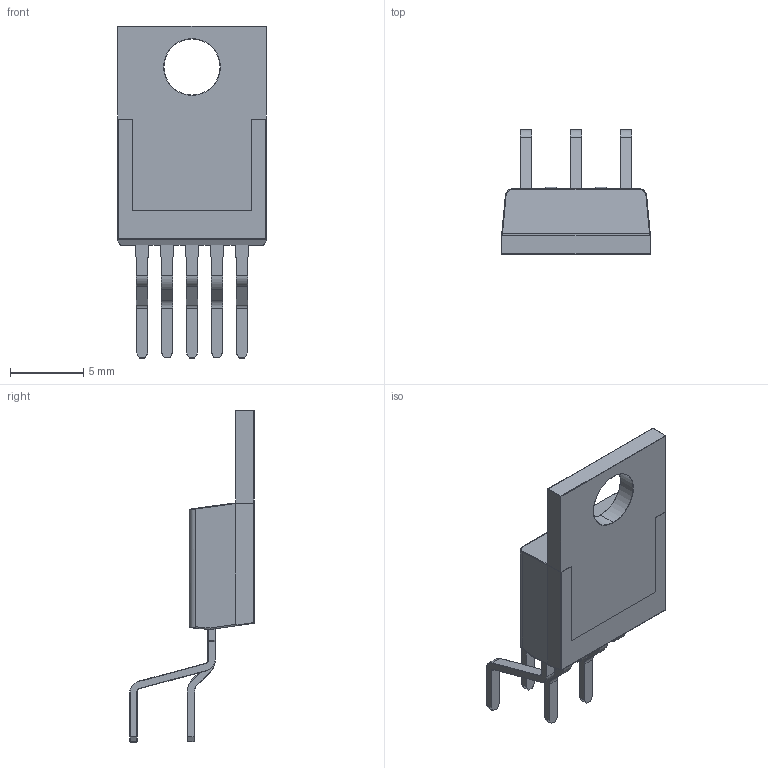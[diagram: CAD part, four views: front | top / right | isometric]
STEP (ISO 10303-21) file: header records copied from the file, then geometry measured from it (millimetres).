
FILE_DESCRIPTION (( 'STEP AP214' ), '1' );
FILE_NAME ('6A72329E-18C2-4E92-B75C-997CB3BC5F99.STEP', '2023-05-24T21:05:29', ( '' ), ( '' ), 'SwSTEP 2.0', 'SolidWorks 2022', '' );
FILE_SCHEMA (( 'AUTOMOTIVE_DESIGN' ));
Length unit declared in the file: millimetre
Products named in the file (1): 6A72329E-18C2-4E92-B75C-997CB3BC5F99
Bounding box: 10.16 x 8.5 x 22.66 mm (x, y, z)
Volume: 454.9 mm3; surface area: 746.9 mm2
Topology: 2 solids, 2 shells, 667 faces, 1638 edges, 934 vertices
Faces by surface type: plane 254, cylinder 223, torus 68, sphere 68, bspline 54
Entity records: 29002 total; most frequent: CARTESIAN_POINT 6516, DIRECTION 3154, ORIENTED_EDGE 3140, EDGE_CURVE 1570, AXIS2_PLACEMENT_3D 1108, LINE 938, VECTOR 938, VERTEX_POINT 934
